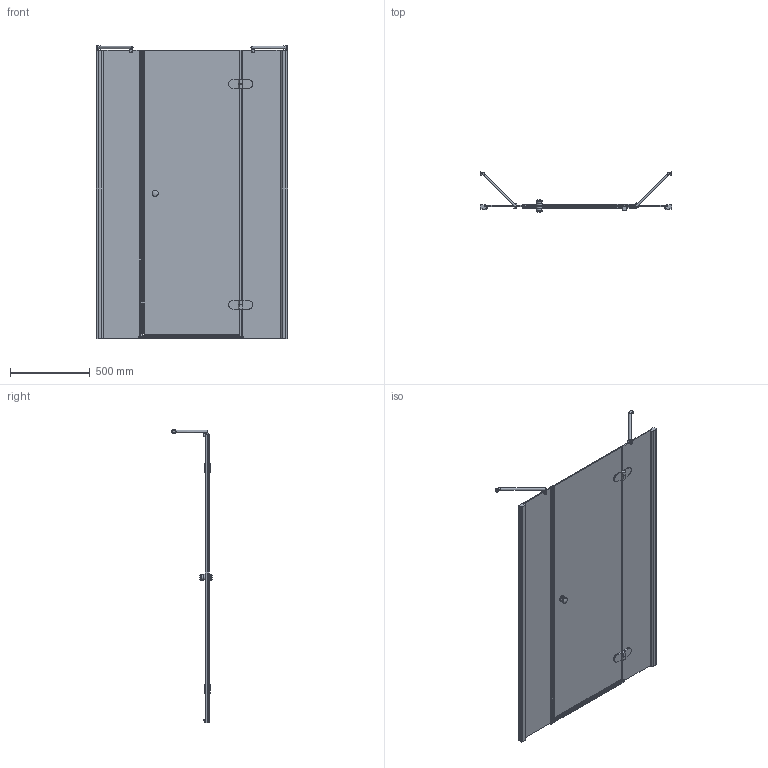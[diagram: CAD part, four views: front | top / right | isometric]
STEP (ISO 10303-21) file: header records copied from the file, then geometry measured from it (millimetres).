
FILE_DESCRIPTION(/* description */ (''),/* implementation_level */ '2;1');
FILE_NAME(/* name */ 'E:\Работа\Сергей\! Готово\Документация и модели всех серий\LUX динамические модели и набор документов\LUX DOOR GK-103\LUX DOOR GK-103 правая модель\LUX DOOR GK-103 ПРАВАЯ-3D.stp',/* time_stamp */ '2018-02-01T20:27:52+03:00',/* author */ ('PC'),/* organization */ (''),/* preprocessor_version */ 'ST-DEVELOPER v15.2',/* originating_system */ 'Autodesk Inventor 2014',/* authorisation */ '');
FILE_SCHEMA (('AUTOMOTIVE_DESIGN { 1 0 10303 214 3 1 1 }'));
Length unit declared in the file: millimetre
Products named in the file (1): LUX DOOR GK-103 ПРАВАЯ-3D
Bounding box: 1200 x 254.4 x 1831.5 mm (x, y, z)
Volume: 16475810.9 mm3; surface area: 4809150.1 mm2
Topology: 5 solids, 5 shells, 609 faces, 1561 edges, 968 vertices
Faces by surface type: plane 417, cylinder 166, torus 14, sphere 8, bspline 4
Full cylindrical faces by diameter (mm): 12 x2, 15 x2, 20 x4, 26 x2, 38 x4
Entity records: 18996 total; most frequent: CARTESIAN_POINT 3643, DIRECTION 3058, ORIENTED_EDGE 3034, EDGE_CURVE 1517, LINE 1104, VECTOR 1104, AXIS2_PLACEMENT_3D 977, VERTEX_POINT 948
